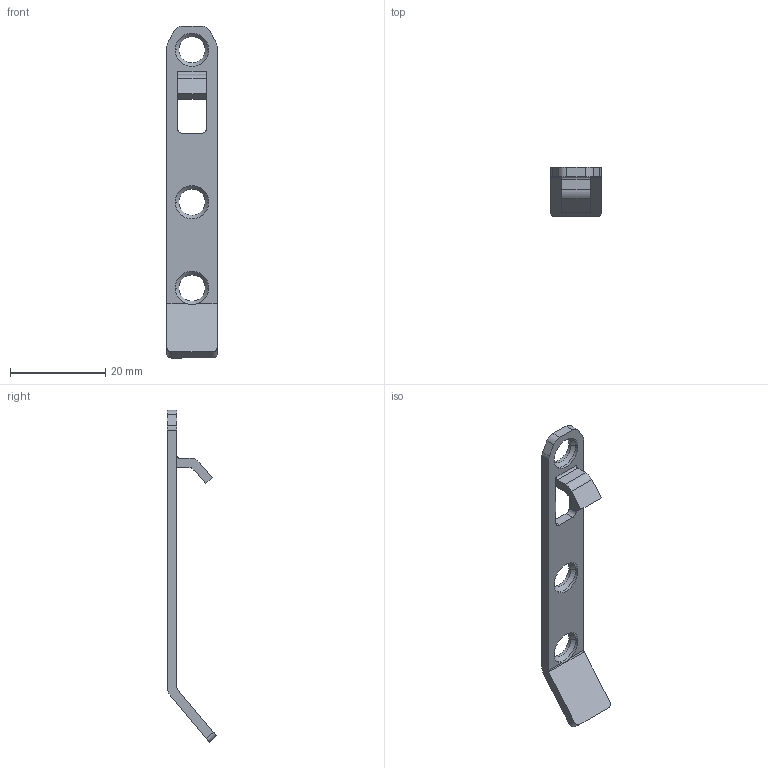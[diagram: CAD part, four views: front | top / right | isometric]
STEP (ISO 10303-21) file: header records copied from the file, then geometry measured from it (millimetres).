
FILE_DESCRIPTION (( 'STEP AP214' ), '1' );
FILE_NAME ('_Einhaengehaken_H90_Anschraubvariante.step', '2010-07-15T08:03:21', ( 'grass' ), ( '' ), 'SwSTEP 2.0', 'SolidWorks 2009', '' );
FILE_SCHEMA (( 'AUTOMOTIVE_DESIGN' ));
Length unit declared in the file: millimetre
Products named in the file (1): _Einhaengehaken_H90_Anschraubvariante
Bounding box: 10.5 x 10.36 x 69.69 mm (x, y, z)
Volume: 1274.8 mm3; surface area: 1833.4 mm2
Topology: 1 solids, 1 shells, 54 faces, 145 edges, 92 vertices
Faces by surface type: cylinder 26, plane 22, cone 6
Entity records: 1749 total; most frequent: DIRECTION 309, CARTESIAN_POINT 301, ORIENTED_EDGE 290, EDGE_CURVE 145, AXIS2_PLACEMENT_3D 110, VERTEX_POINT 92, LINE 89, VECTOR 89
